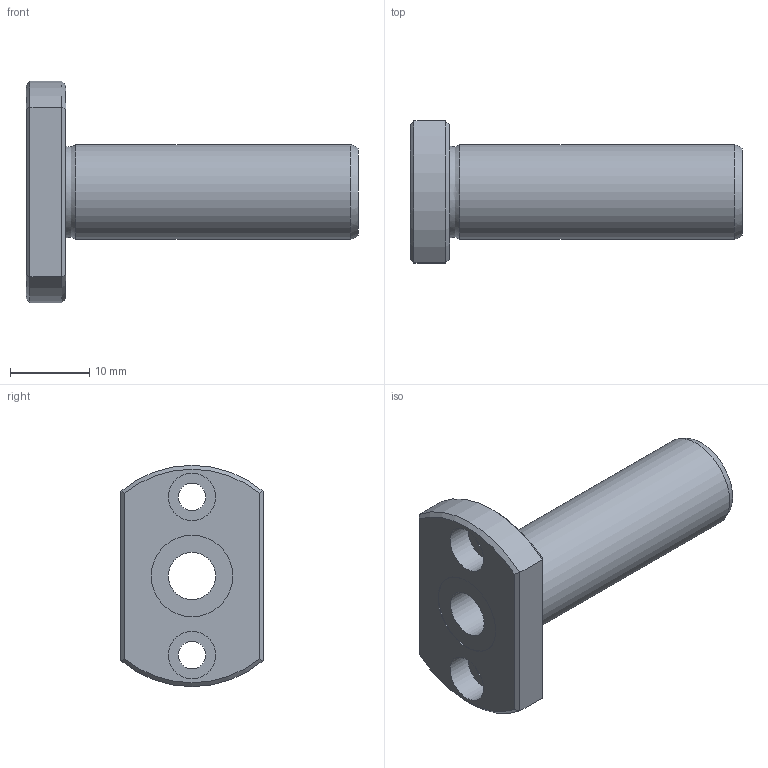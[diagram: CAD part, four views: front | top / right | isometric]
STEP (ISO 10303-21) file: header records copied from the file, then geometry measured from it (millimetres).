
FILE_DESCRIPTION((''),'2;1');
FILE_NAME('D:\製品 (図面)\カタログ用3D\メンテナンスフリー関連\STEP形式\LFDT-MF\LFDT6MF.stp','2010-06-01T15:49:25',('Tsuchiya'),(''),'Autodesk Inventor 10','Autodesk Inventor 10','');
FILE_SCHEMA(('AUTOMOTIVE_DESIGN { 1 0 10303 214 1 1 1 1 }'));
Length unit declared in the file: millimetre
Products named in the file (1): LFDT6MF
Bounding box: 42 x 18 x 28 mm (x, y, z)
Volume: 5066.2 mm3; surface area: 3544.2 mm2
Topology: 1 solids, 1 shells, 29 faces, 56 edges, 34 vertices
Faces by surface type: plane 13, cylinder 10, cone 4, bspline 2
Full cylindrical faces by diameter (mm): 3.5 x2, 6 x3, 10.3 x2, 12 x1
Entity records: 809 total; most frequent: CARTESIAN_POINT 222, DIRECTION 120, ORIENTED_EDGE 92, AXIS2_PLACEMENT_3D 54, EDGE_LOOP 50, EDGE_CURVE 46, VERTEX_POINT 34, FACE_OUTER_BOUND 29
